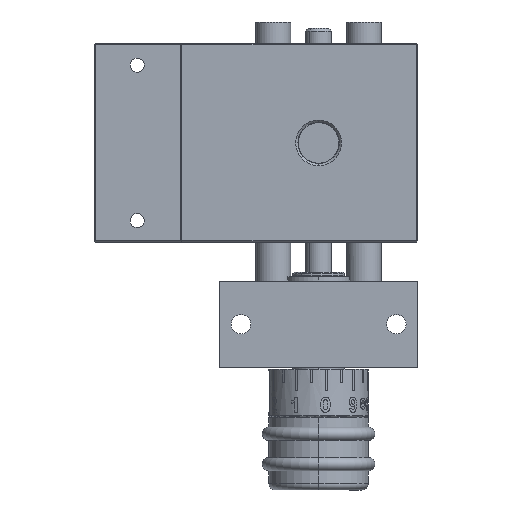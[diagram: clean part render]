
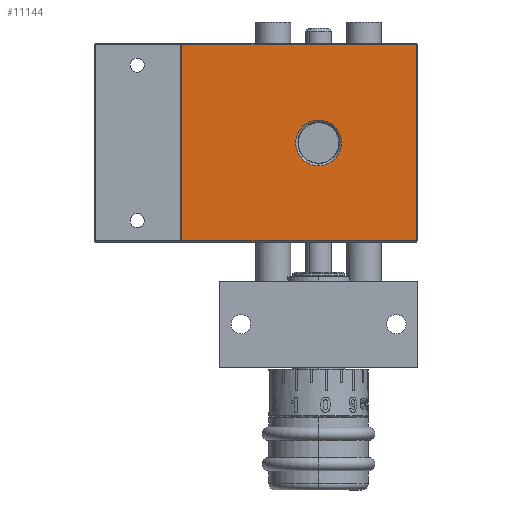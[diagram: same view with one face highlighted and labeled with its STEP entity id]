
A CAD part, front view. The second image highlights one B-rep face of the part: STEP entity #11144.
In plain terms, the highlighted planar face has unit normal (0, -1, 0).
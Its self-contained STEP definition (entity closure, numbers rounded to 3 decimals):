
#806 = CIRCLE ( 'NONE', #16688, 5.3 ) ;
#1320 = EDGE_CURVE ( 'NONE', #21165, #26936, #10945, .T. ) ;
#2060 = ORIENTED_EDGE ( 'NONE', *, *, #21146, .T. ) ;
#2078 = AXIS2_PLACEMENT_3D ( 'NONE', #12197, #16566, #14733 ) ;
#2542 = CARTESIAN_POINT ( 'NONE',  ( -52., -7., 22.7 ) ) ;
#2718 = ORIENTED_EDGE ( 'NONE', *, *, #30002, .T. ) ;
#2997 = ORIENTED_EDGE ( 'NONE', *, *, #25112, .T. ) ;
#3133 = AXIS2_PLACEMENT_3D ( 'NONE', #11085, #11198, #27554 ) ;
#5237 = FACE_OUTER_BOUND ( 'NONE', #6238, .T. ) ;
#5387 = VECTOR ( 'NONE', #19421, 1000. ) ;
#6225 = PLANE ( 'NONE',  #3133 ) ;
#6238 = EDGE_LOOP ( 'NONE', ( #24878, #2060, #30106, #2718 ) ) ;
#7084 = ORIENTED_EDGE ( 'NONE', *, *, #1320, .T. ) ;
#8140 = VECTOR ( 'NONE', #22831, 1000. ) ;
#9673 = LINE ( 'NONE', #29618, #8140 ) ;
#10554 = DIRECTION ( 'NONE',  ( 0., 1., 0. ) ) ;
#10945 = CIRCLE ( 'NONE', #2078, 5.3 ) ;
#11085 = CARTESIAN_POINT ( 'NONE',  ( -52., -7., -23. ) ) ;
#11144 = ADVANCED_FACE ( 'NONE', ( #11724, #5237 ), #6225, .F. ) ;
#11198 = DIRECTION ( 'NONE',  ( 0., 1., 0. ) ) ;
#11724 = FACE_BOUND ( 'NONE', #22636, .T. ) ;
#12197 = CARTESIAN_POINT ( 'NONE',  ( 0., -7., 0. ) ) ;
#14689 = CARTESIAN_POINT ( 'NONE',  ( -31.7, -7., -22.7 ) ) ;
#14733 = DIRECTION ( 'NONE',  ( 0., 0., -1. ) ) ;
#15237 = VERTEX_POINT ( 'NONE', #26016 ) ;
#15326 = VECTOR ( 'NONE', #24529, 1000. ) ;
#15892 = VERTEX_POINT ( 'NONE', #14689 ) ;
#16566 = DIRECTION ( 'NONE',  ( 0., 1., 0. ) ) ;
#16657 = EDGE_CURVE ( 'NONE', #15892, #25199, #21579, .T. ) ;
#16668 = CARTESIAN_POINT ( 'NONE',  ( 22.7, -7., -23. ) ) ;
#16688 = AXIS2_PLACEMENT_3D ( 'NONE', #24639, #10554, #26941 ) ;
#18255 = CARTESIAN_POINT ( 'NONE',  ( 0., -7., -5.3 ) ) ;
#18258 = LINE ( 'NONE', #2542, #5387 ) ;
#18379 = VECTOR ( 'NONE', #23345, 1000. ) ;
#19421 = DIRECTION ( 'NONE',  ( -1., 0., 0. ) ) ;
#21146 = EDGE_CURVE ( 'NONE', #25199, #29111, #30594, .T. ) ;
#21165 = VERTEX_POINT ( 'NONE', #23631 ) ;
#21579 = LINE ( 'NONE', #28742, #15326 ) ;
#22636 = EDGE_LOOP ( 'NONE', ( #7084, #2997 ) ) ;
#22831 = DIRECTION ( 'NONE',  ( 0., 0., -1. ) ) ;
#23345 = DIRECTION ( 'NONE',  ( 0., 0., 1. ) ) ;
#23631 = CARTESIAN_POINT ( 'NONE',  ( 0., -7., 5.3 ) ) ;
#24529 = DIRECTION ( 'NONE',  ( 1., 0., 0. ) ) ;
#24639 = CARTESIAN_POINT ( 'NONE',  ( 0., -7., 0. ) ) ;
#24738 = CARTESIAN_POINT ( 'NONE',  ( 22.7, -7., -22.7 ) ) ;
#24878 = ORIENTED_EDGE ( 'NONE', *, *, #16657, .T. ) ;
#25112 = EDGE_CURVE ( 'NONE', #26936, #21165, #806, .T. ) ;
#25199 = VERTEX_POINT ( 'NONE', #24738 ) ;
#25562 = EDGE_CURVE ( 'NONE', #29111, #15237, #18258, .T. ) ;
#26016 = CARTESIAN_POINT ( 'NONE',  ( -31.7, -7., 22.7 ) ) ;
#26530 = CARTESIAN_POINT ( 'NONE',  ( 22.7, -7., 22.7 ) ) ;
#26936 = VERTEX_POINT ( 'NONE', #18255 ) ;
#26941 = DIRECTION ( 'NONE',  ( 0., 0., -1. ) ) ;
#27554 = DIRECTION ( 'NONE',  ( 0., 0., -1. ) ) ;
#28742 = CARTESIAN_POINT ( 'NONE',  ( -52., -7., -22.7 ) ) ;
#29111 = VERTEX_POINT ( 'NONE', #26530 ) ;
#29618 = CARTESIAN_POINT ( 'NONE',  ( -31.7, -7., -23. ) ) ;
#30002 = EDGE_CURVE ( 'NONE', #15237, #15892, #9673, .T. ) ;
#30106 = ORIENTED_EDGE ( 'NONE', *, *, #25562, .T. ) ;
#30594 = LINE ( 'NONE', #16668, #18379 ) ;
